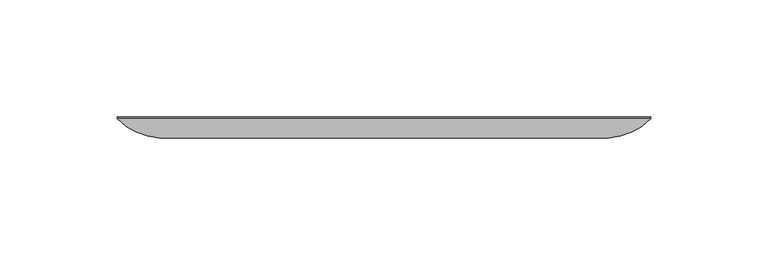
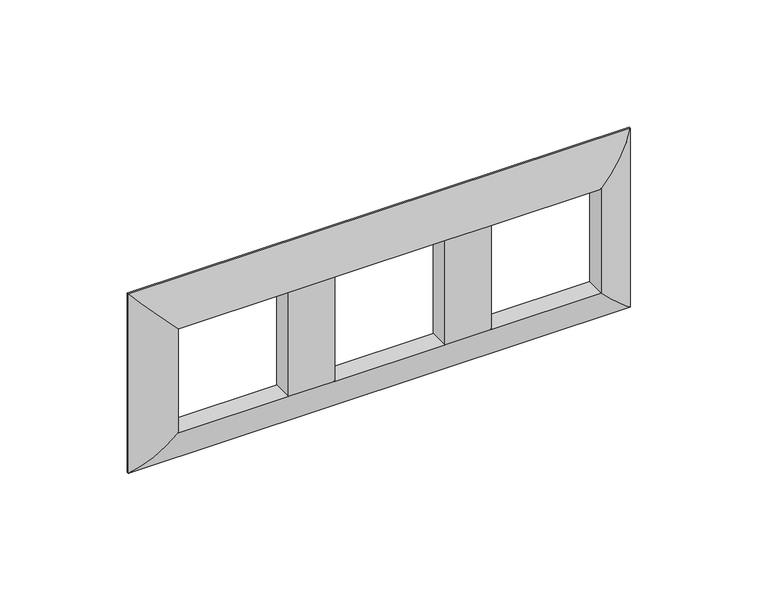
"""IFC4 building model written with IfcOpenShell, lengths in millimetres: proxy geometry, КНС_РамкаНа2x3Модуля(трехместная)_DKC : 2х3 модулей."""

from ifc_helpers import new_model, si_unit, frame, origin, place, context, project, spatial, ellipse_curve, source, transform, mapped, element, save
from ifc_brep_helpers import plane_surface, cylinder_surface, advanced_brep


def electrical_fixtures_fbcc075d(model_context):
    return source(origin(), model_context, "Body", "AdvancedBrep", [
        advanced_brep(
        [(96.0, -9.0, 24.9768143), (96.0, 0.0, 24.9768143), (96.0, 0.0, -24.9768143), (96.0, -9.0, -24.9768143), (114.0, -0.8, -42.9768143), (114.0, -0.8, 42.9768143), (114.0, 0.0, -42.9768143), (114.0, 0.0, 42.9768143), (46.0, 0.0, -24.9768143), (46.0, -9.0, -24.9768143), (-96.0, 0.0, -24.9768143), (-96.0, -9.0, -24.9768143), (-46.0, -9.0, -24.9768143), (-46.0, 0.0, -24.9768143), (25.0, 0.0, -24.9768143), (-25.0, 0.0, -24.9768143), (-25.0, -9.0, -24.9768143), (25.0, -9.0, -24.9768143), (-114.0, -0.8, -42.9768143), (-114.0, 0.0, -42.9768143), (-96.0, 0.0, 24.9768143), (-96.0, -9.0, 24.9768143), (-114.0, -0.8, 42.9768143), (-114.0, 0.0, 42.9768143), (46.0, -9.0, 24.9768143), (46.0, 0.0, 24.9768143), (-46.0, 0.0, 24.9768143), (-46.0, -9.0, 24.9768143), (-25.0, 0.0, 24.9768143), (25.0, 0.0, 24.9768143), (25.0, -9.0, 24.9768143), (-25.0, -9.0, 24.9768143)],
        [
            (0, 1),
            (1, 2),
            (2, 3),
            (3, 0),
            (3, 4, ellipse_curve(frame((94.2227605, 18.757355, -23.1995748), z_axis=(0.7071067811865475, 0.0, 0.7071067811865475), x_axis=(-0.7071067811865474, 0.0, 0.7071067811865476)), 39.3352091, 27.8141931)),
            (4, 5),
            (5, 0, ellipse_curve(frame((94.2227605, 18.757355, 23.1995748), z_axis=(0.7071067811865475, 0.0, -0.7071067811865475), x_axis=(0.7071067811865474, 0.0, 0.7071067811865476)), 39.3352091, 27.8141931)),
            (4, 6),
            (6, 7),
            (7, 5),
            (2, 8),
            (8, 9),
            (9, 3),
            (10, 11),
            (11, 12),
            (12, 13),
            (13, 10),
            (14, 15),
            (15, 16),
            (16, 17),
            (17, 14),
            (9, 17),
            (16, 12),
            (11, 18, ellipse_curve(frame((-94.2227605, 18.757355, -23.1995748), z_axis=(0.7071067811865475, 0.0, -0.7071067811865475), x_axis=(0.7071067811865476, 0.0, 0.7071067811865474)), 39.3352091, 27.8141931)),
            (18, 4),
            (18, 19),
            (19, 6),
            (10, 20),
            (20, 21),
            (21, 11),
            (21, 22, ellipse_curve(frame((-94.2227605, 18.757355, 23.1995748), z_axis=(-0.7071067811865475, 0.0, -0.7071067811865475), x_axis=(0.7071067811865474, 0.0, -0.7071067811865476)), 39.3352091, 27.8141931)),
            (22, 18),
            (22, 23),
            (23, 19),
            (0, 24),
            (24, 25),
            (25, 1),
            (20, 26),
            (26, 27),
            (27, 21),
            (28, 29),
            (29, 30),
            (30, 31),
            (31, 28),
            (5, 22),
            (27, 31),
            (30, 24),
            (7, 23),
            (25, 8),
            (13, 26),
            (28, 15),
            (14, 29),
            (27, 12),
            (16, 31),
            (30, 17),
            (9, 24),
        ],
        [
            plane_surface(frame((96.0, 0.0, 24.9768143), z_axis=(-1.0, 0.0, 0.0), x_axis=(0.0, 0.0, -1.0))),
            cylinder_surface(frame((94.2227605, 18.757355, 42.9768143), z_axis=(0.0, 0.0, 1.0), x_axis=(1.0, 0.0, 0.0)), 27.8141931),
            plane_surface(frame((114.0, -0.8, 42.9768143), z_axis=(1.0, 0.0, 0.0), x_axis=(0.0, 0.0, -1.0))),
            plane_surface(frame((96.0, 0.0, -24.9768143), z_axis=(0.0, 0.0, 1.0), x_axis=(-1.0, 0.0, 0.0))),
            cylinder_surface(frame((114.0, 18.757355, -23.1995748), z_axis=(1.0, 0.0, 0.0), x_axis=(0.0, 0.0, -1.0)), 27.8141931),
            plane_surface(frame((114.0, -0.8, -42.9768143), z_axis=(0.0, 0.0, -1.0), x_axis=(-1.0, 0.0, 0.0))),
            plane_surface(frame((-96.0, 0.0, -24.9768143), z_axis=(1.0, 0.0, 0.0), x_axis=(0.0, 0.0, 1.0))),
            cylinder_surface(frame((-94.2227605, 18.757355, -42.9768143), z_axis=(0.0, 0.0, -1.0), x_axis=(-1.0, 0.0, 0.0)), 27.8141931),
            plane_surface(frame((-114.0, -0.8, -42.9768143), z_axis=(-1.0, 0.0, 0.0), x_axis=(0.0, 0.0, 1.0))),
            plane_surface(frame((-96.0, 0.0, 24.9768143), z_axis=(0.0, 0.0, -1.0), x_axis=(1.0, 0.0, 0.0))),
            cylinder_surface(frame((-114.0, 18.757355, 23.1995748), z_axis=(-1.0, 0.0, 0.0), x_axis=(0.0, 0.0, 1.0)), 27.8141931),
            plane_surface(frame((-114.0, -0.8, 42.9768143), z_axis=(0.0, 0.0, 1.0), x_axis=(1.0, 0.0, 0.0))),
            plane_surface(frame((-114.0, 0.0, 42.9768143), z_axis=(0.0, 1.0, 0.0), x_axis=(1.0, 0.0, 0.0))),
            plane_surface(frame((-46.0, -9.0, 24.9768143), z_axis=(0.0, -1.0, 0.0), x_axis=(-1.0, 0.0, 0.0))),
            plane_surface(frame((-46.0, -9.0, 24.9768143), z_axis=(-1.0, 0.0, 0.0), x_axis=(0.0, 1.0, 0.0))),
            plane_surface(frame((-25.0, -9.0, -24.9768143), z_axis=(1.0, 0.0, 0.0), x_axis=(0.0, 1.0, 0.0))),
            plane_surface(frame((25.0, -9.0, 24.9768143), z_axis=(-1.0, 0.0, 0.0), x_axis=(0.0, 1.0, 0.0))),
            plane_surface(frame((46.0, -9.0, -24.9768143), z_axis=(1.0, 0.0, 0.0), x_axis=(0.0, 1.0, 0.0))),
        ],
        [
            (0, [[1, 2, 3, 4]]),
            (1, [[-4, 5, 6, 7]]),
            (2, [[-6, 8, 9, 10]]),
            (3, [[-3, 11, 12, 13]]),
            (3, [[14, 15, 16, 17]]),
            (3, [[18, 19, 20, 21]]),
            (4, [[-5, -13, 22, -20, 23, -15, 24, 25]]),
            (5, [[-8, -25, 26, 27]]),
            (6, [[-14, 28, 29, 30]]),
            (7, [[-24, -30, 31, 32]]),
            (8, [[-26, -32, 33, 34]]),
            (9, [[-1, 35, 36, 37]]),
            (9, [[-29, 38, 39, 40]]),
            (9, [[41, 42, 43, 44]]),
            (10, [[-7, 45, -31, -40, 46, -43, 47, -35]]),
            (11, [[-10, 48, -33, -45]]),
            (12, [[-9, -27, -34, -48], [-2, -37, 49, -11], [-17, 50, -38, -28], [-41, 51, -18, 52]]),
            (13, [[53, -23, 54, -46]]),
            (13, [[55, -22, 56, -47]]),
            (14, [[-53, -39, -50, -16]]),
            (15, [[-54, -19, -51, -44]]),
            (16, [[-55, -42, -52, -21]]),
            (17, [[-56, -12, -49, -36]]),
        ],
    ),
    ])


if __name__ == "__main__":
    model = new_model("IFC4")
    model_context = context("Model", 3, world=origin())
    ifc_project = project(units=[si_unit("LENGTHUNIT", "METRE", prefix="MILLI")], contexts=[model_context])
    site = spatial("IfcSite", under=ifc_project)
    building = spatial("IfcBuilding", under=site)
    placement = place(None, origin())
    electrical_fixtures_shape = electrical_fixtures_fbcc075d(model_context)
    element("IfcBuildingElementProxy", 1, Name="КНС_РамкаНа2x3Модуля(трехместная)_DKC : 2х3 модулей", ObjectType="КНС_РамкаНа2x3Модуля(трехместная)_DKC : 2х3 модулей", at=placement, inside=building, context=model_context, shape_type="MappedRepresentation", body=[
        mapped(electrical_fixtures_shape, transform((0.0, 0.0, 0.0), x_axis=(1.0, 0.0, 0.0), y_axis=(0.0, 1.0, 0.0), z_axis=(0.0, 0.0, 1.0))),
    ])
    save(model, "model.ifc")
